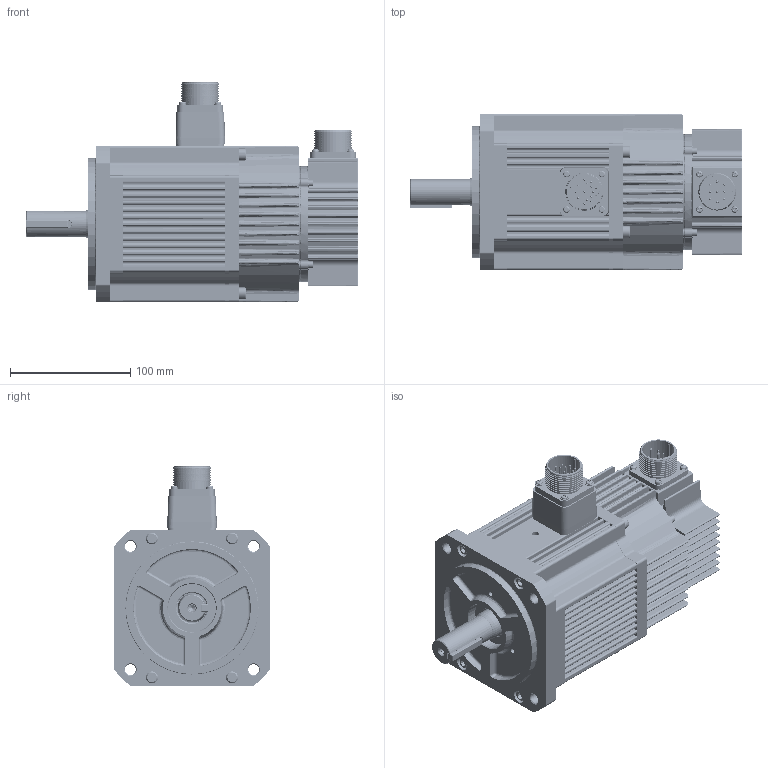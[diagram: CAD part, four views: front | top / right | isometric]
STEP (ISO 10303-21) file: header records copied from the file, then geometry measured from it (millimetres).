
FILE_DESCRIPTION (( 'STEP AP203' ), '1' );
FILE_NAME ('1000W B.STEP', '2022-06-28T21:24:15', ( '' ), ( '' ), 'SwSTEP 2.0', 'SolidWorks 2011', '' );
FILE_SCHEMA (( 'CONFIG_CONTROL_DESIGN' ));
Products named in the file (19): 0Y2106205Z501-00_2; 0Y2106205Z501-00_3; 0Y2106205Z501-00_1; 0Y2106205Z501-00_4; 0Y2106205Z501-00; 0Y2106205Z501-00_5; 1000W B; 0Y2106205Z501-00_16; 0Y2106205Z501-00_15; 0Y2106205Z501-00_17; 0Y2106205Z501-00_13; 0Y2106205Z501-00_14; 0Y2106205Z501-00_12; 0Y2106205Z501-00_10; 0Y2106205Z501-00_11; 0Y2106205Z501-00_9; 0Y2106205Z501-00_8; 0Y2106205Z501-00_7; 0Y2106205Z501-00_6
Assembly tree (18 placements, depth 2):
  1000W B
    0Y2106205Z501-00_16
    0Y2106205Z501-00_15
    0Y2106205Z501-00_14
    0Y2106205Z501-00_9
    0Y2106205Z501-00_5
    0Y2106205Z501-00_8
    0Y2106205Z501-00_10
    0Y2106205Z501-00_7
    0Y2106205Z501-00_11
    0Y2106205Z501-00_17
    0Y2106205Z501-00_3
    0Y2106205Z501-00_6
    0Y2106205Z501-00_1
    0Y2106205Z501-00_2
    0Y2106205Z501-00_13
    0Y2106205Z501-00_4
    0Y2106205Z501-00
    0Y2106205Z501-00_12
Bounding box: 276.3 x 130.4 x 183.61 mm (x, y, z)
Volume: 19982 mm3; surface area: 435966.3 mm2
Topology: 17 solids, 54 shells, 3463 faces, 8709 edges, 5453 vertices
Faces by surface type: cylinder 1464, plane 1213, bspline 552, cone 202, torus 32
Entity records: 148205 total; most frequent: CARTESIAN_POINT 68050, ORIENTED_EDGE 16958, DIRECTION 15244, EDGE_CURVE 8490, AXIS2_PLACEMENT_3D 5859, VERTEX_POINT 5453, EDGE_LOOP 3953, VECTOR 3526
